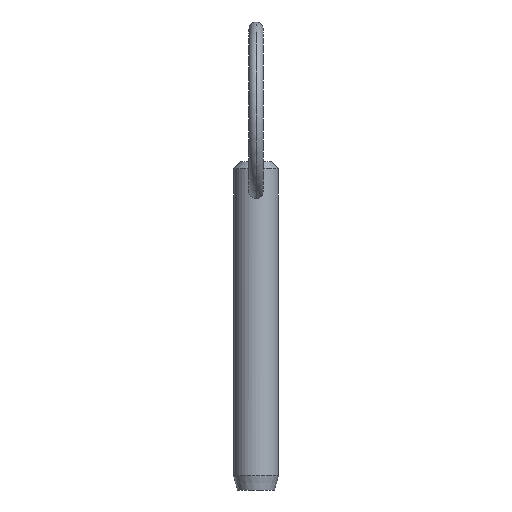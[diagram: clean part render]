
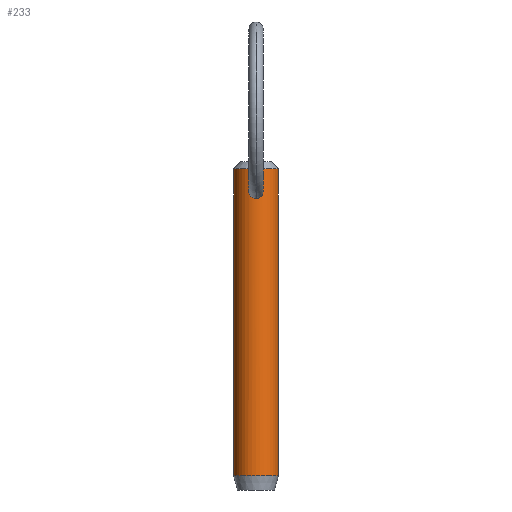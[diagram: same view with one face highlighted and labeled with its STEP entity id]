
A CAD part, front view. The second image highlights one B-rep face of the part: STEP entity #233.
In plain terms, the highlighted cylindrical face has radius 3.175 mm (diameter 6.35 mm), a partial arc.
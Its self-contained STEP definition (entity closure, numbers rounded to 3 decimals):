
#1 = CARTESIAN_POINT ( 'NONE',  ( 0.268, -3.166, 33.429 ) ) ;
#8 = AXIS2_PLACEMENT_3D ( 'NONE', #336, #258, #109 ) ;
#13 = CARTESIAN_POINT ( 'NONE',  ( -0.629, -3.114, 33.605 ) ) ;
#20 = AXIS2_PLACEMENT_3D ( 'NONE', #238, #111, #200 ) ;
#22 = VECTOR ( 'NONE', #301, 1000. ) ;
#27 = CARTESIAN_POINT ( 'NONE',  ( -3.175, 0., 37.58 ) ) ;
#31 = CARTESIAN_POINT ( 'NONE',  ( -1.004, -3.012, 34.295 ) ) ;
#38 = CARTESIAN_POINT ( 'NONE',  ( 1.004, -3.012, 34.293 ) ) ;
#61 = CIRCLE ( 'NONE', #20, 3.175 ) ;
#62 = CARTESIAN_POINT ( 'NONE',  ( -0.615, -3.116, 35.253 ) ) ;
#63 = VERTEX_POINT ( 'NONE', #471 ) ;
#65 = CARTESIAN_POINT ( 'NONE',  ( 3.175, 0., 33. ) ) ;
#84 = FACE_BOUND ( 'NONE', #282, .T. ) ;
#92 = LINE ( 'NONE', #65, #22 ) ;
#97 = CARTESIAN_POINT ( 'NONE',  ( 0.617, -3.116, 35.251 ) ) ;
#102 = DIRECTION ( 'NONE',  ( 0., 0., -1. ) ) ;
#105 = CARTESIAN_POINT ( 'NONE',  ( -0.264, -3.165, 35.444 ) ) ;
#109 = DIRECTION ( 'NONE',  ( 1., 0., 0. ) ) ;
#111 = DIRECTION ( 'NONE',  ( 0., 0., 1. ) ) ;
#117 = VERTEX_POINT ( 'NONE', #395 ) ;
#137 = CARTESIAN_POINT ( 'NONE',  ( 0.134, -3.175, 35.482 ) ) ;
#142 = EDGE_CURVE ( 'NONE', #63, #431, #251, .T. ) ;
#143 = DIRECTION ( 'NONE',  ( -1., 0., 0. ) ) ;
#144 = CARTESIAN_POINT ( 'NONE',  ( -0.133, -3.173, 35.474 ) ) ;
#152 = VERTEX_POINT ( 'NONE', #27 ) ;
#174 = CARTESIAN_POINT ( 'NONE',  ( -0.882, -3.055, 34.96 ) ) ;
#179 = CARTESIAN_POINT ( 'NONE',  ( -0.983, -3.02, 34.159 ) ) ;
#184 = CARTESIAN_POINT ( 'NONE',  ( 0.992, -3.016, 34.694 ) ) ;
#185 = CARTESIAN_POINT ( 'NONE',  ( -3.175, 0., 33. ) ) ;
#200 = DIRECTION ( 'NONE',  ( -1., 0., 0. ) ) ;
#203 = EDGE_CURVE ( 'NONE', #152, #117, #482, .T. ) ;
#206 = CARTESIAN_POINT ( 'NONE',  ( 0., -3.175, 33.403 ) ) ;
#214 = CARTESIAN_POINT ( 'NONE',  ( 0.884, -3.055, 34.957 ) ) ;
#220 = DIRECTION ( 'NONE',  ( 0., 0., -1. ) ) ;
#227 = CARTESIAN_POINT ( 'NONE',  ( 0., 0., 33. ) ) ;
#233 = ADVANCED_FACE ( 'NONE', ( #460, #84 ), #473, .T. ) ;
#238 = CARTESIAN_POINT ( 'NONE',  ( 0., 0., -5.92 ) ) ;
#248 = CARTESIAN_POINT ( 'NONE',  ( 3.175, 0., 37.58 ) ) ;
#251 = B_SPLINE_CURVE_WITH_KNOTS ( 'NONE', 3,
 ( #360, #137, #284, #432, #97, #214, #184, #38, #408, #367, #476, #400, #401, #1, #404, #334 ),
 .UNSPECIFIED., .F., .F.,
 ( 4, 2, 2, 2, 2, 2, 2, 4 ),
 ( 0.003, 0.003, 0.004, 0.004, 0.005, 0.005, 0.006, 0.006 ),
 .UNSPECIFIED. ) ;
#258 = DIRECTION ( 'NONE',  ( 0., 0., -1. ) ) ;
#259 = EDGE_CURVE ( 'NONE', #454, #294, #92, .T. ) ;
#272 = B_SPLINE_CURVE_WITH_KNOTS ( 'NONE', 3,
 ( #206, #309, #457, #388, #13, #358, #399, #179, #31, #287, #174, #62, #326, #479, #105, #144, #338, #403 ),
 .UNSPECIFIED., .F., .F.,
 ( 4, 2, 2, 2, 2, 2, 2, 2, 4 ),
 ( 0.006, 0.006, 0.007, 0.007, 0.008, 0.008, 0.009, 0.009, 0.009 ),
 .UNSPECIFIED. ) ;
#275 = ORIENTED_EDGE ( 'NONE', *, *, #451, .T. ) ;
#279 = ORIENTED_EDGE ( 'NONE', *, *, #398, .T. ) ;
#282 = EDGE_LOOP ( 'NONE', ( #313, #279 ) ) ;
#284 = CARTESIAN_POINT ( 'NONE',  ( 0.269, -3.166, 35.45 ) ) ;
#287 = CARTESIAN_POINT ( 'NONE',  ( -0.991, -3.016, 34.696 ) ) ;
#294 = VERTEX_POINT ( 'NONE', #446 ) ;
#301 = DIRECTION ( 'NONE',  ( 0., 0., -1. ) ) ;
#309 = CARTESIAN_POINT ( 'NONE',  ( -0.134, -3.175, 33.403 ) ) ;
#311 = ORIENTED_EDGE ( 'NONE', *, *, #259, .F. ) ;
#313 = ORIENTED_EDGE ( 'NONE', *, *, #142, .T. ) ;
#323 = ORIENTED_EDGE ( 'NONE', *, *, #203, .T. ) ;
#326 = CARTESIAN_POINT ( 'NONE',  ( -0.508, -3.136, 35.335 ) ) ;
#328 = AXIS2_PLACEMENT_3D ( 'NONE', #227, #102, #143 ) ;
#334 = CARTESIAN_POINT ( 'NONE',  ( 0., -3.175, 33.403 ) ) ;
#335 = EDGE_CURVE ( 'NONE', #117, #294, #61, .T. ) ;
#336 = CARTESIAN_POINT ( 'NONE',  ( 0., 0., 37.58 ) ) ;
#338 = CARTESIAN_POINT ( 'NONE',  ( -0.067, -3.175, 35.482 ) ) ;
#356 = EDGE_LOOP ( 'NONE', ( #311, #275, #323, #420 ) ) ;
#358 = CARTESIAN_POINT ( 'NONE',  ( -0.815, -3.07, 33.795 ) ) ;
#360 = CARTESIAN_POINT ( 'NONE',  ( 0., -3.175, 35.482 ) ) ;
#367 = CARTESIAN_POINT ( 'NONE',  ( 0.888, -3.049, 33.909 ) ) ;
#388 = CARTESIAN_POINT ( 'NONE',  ( -0.516, -3.135, 33.531 ) ) ;
#395 = CARTESIAN_POINT ( 'NONE',  ( -3.175, 0., -5.92 ) ) ;
#398 = EDGE_CURVE ( 'NONE', #431, #63, #272, .T. ) ;
#399 = CARTESIAN_POINT ( 'NONE',  ( -0.888, -3.049, 33.909 ) ) ;
#400 = CARTESIAN_POINT ( 'NONE',  ( 0.628, -3.114, 33.604 ) ) ;
#401 = CARTESIAN_POINT ( 'NONE',  ( 0.515, -3.135, 33.53 ) ) ;
#403 = CARTESIAN_POINT ( 'NONE',  ( 0., -3.175, 35.482 ) ) ;
#404 = CARTESIAN_POINT ( 'NONE',  ( 0.134, -3.175, 33.403 ) ) ;
#408 = CARTESIAN_POINT ( 'NONE',  ( 0.982, -3.02, 34.158 ) ) ;
#420 = ORIENTED_EDGE ( 'NONE', *, *, #335, .T. ) ;
#431 = VERTEX_POINT ( 'NONE', #477 ) ;
#432 = CARTESIAN_POINT ( 'NONE',  ( 0.51, -3.136, 35.334 ) ) ;
#446 = CARTESIAN_POINT ( 'NONE',  ( 3.175, 0., -5.92 ) ) ;
#451 = EDGE_CURVE ( 'NONE', #454, #152, #485, .T. ) ;
#454 = VERTEX_POINT ( 'NONE', #248 ) ;
#457 = CARTESIAN_POINT ( 'NONE',  ( -0.269, -3.166, 33.429 ) ) ;
#460 = FACE_OUTER_BOUND ( 'NONE', #356, .T. ) ;
#467 = VECTOR ( 'NONE', #220, 1000. ) ;
#471 = CARTESIAN_POINT ( 'NONE',  ( 0., -3.175, 35.482 ) ) ;
#473 = CYLINDRICAL_SURFACE ( 'NONE', #328, 3.175 ) ;
#476 = CARTESIAN_POINT ( 'NONE',  ( 0.815, -3.07, 33.795 ) ) ;
#477 = CARTESIAN_POINT ( 'NONE',  ( 0., -3.175, 33.403 ) ) ;
#479 = CARTESIAN_POINT ( 'NONE',  ( -0.328, -3.159, 35.421 ) ) ;
#482 = LINE ( 'NONE', #185, #467 ) ;
#485 = CIRCLE ( 'NONE', #8, 3.175 ) ;
